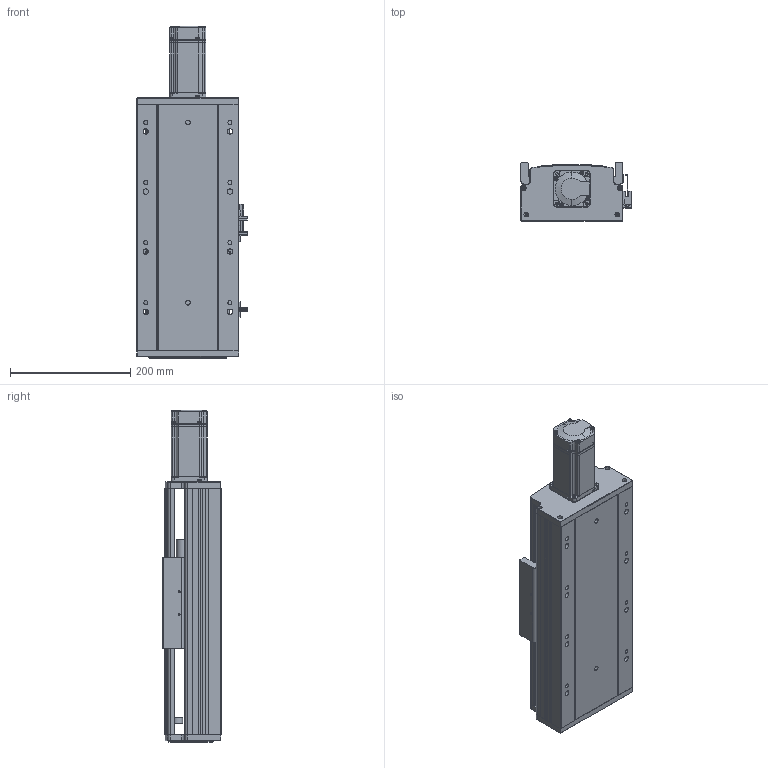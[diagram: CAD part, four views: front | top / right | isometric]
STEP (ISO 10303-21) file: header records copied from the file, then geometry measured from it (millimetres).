
FILE_DESCRIPTION (( 'STEP AP203' ), '1' );
FILE_NAME ('RY170-L2020-300-MK.SLDASM_100.step', '2021-02-20T03:50:15', ( '盈信电脑' ), ( '东莞市道滘镇水果街19号' ), 'SwSTEP 2.0', 'SolidWorks 2012', '' );
FILE_SCHEMA (( 'CONFIG_CONTROL_DESIGN' ));
Products named in the file (12): 滅袉蝶18-28; 滅袉蝶18-10; RY170-L2020-300-MK.SLDASM_100; RY170外置感应片(200共用）; RY170ヶ醱裔啣; RY170綴裔啣; 覜茼ん672; 侂狟400W侜督萇儂; RY170-300倰第裔啣-MK_100; 15; RY170臏賑輸20佪裝蹟譫; RY170-300倰第菁釱-MK_100
Assembly tree (13 placements, depth 3):
  RY170-L2020-300-MK.SLDASM_100
    RY170-300倰第菁釱-MK_100
    RY170-300倰第裔啣-MK_100
    RY170臏賑輸20佪裝蹟譫
    侂狟400W侜督萇儂
      15
    RY170綴裔啣
    覜茼ん672  x3
    RY170外置感应片(200共用）
    RY170ヶ醱裔啣
    滅袉蝶18-28
    滅袉蝶18-10
Bounding box: 183.7 x 97 x 552.5 mm (x, y, z)
Volume: 2959270.5 mm3; surface area: 843459.4 mm2
Topology: 12 solids, 12 shells, 2020 faces, 5700 edges, 3708 vertices
Faces by surface type: plane 1166, cylinder 694, cone 131, bspline 29
Entity records: 62921 total; most frequent: CARTESIAN_POINT 13459, ORIENTED_EDGE 10276, DIRECTION 9809, EDGE_CURVE 5138, LINE 3425, VECTOR 3425, VERTEX_POINT 3388, AXIS2_PLACEMENT_3D 3192
